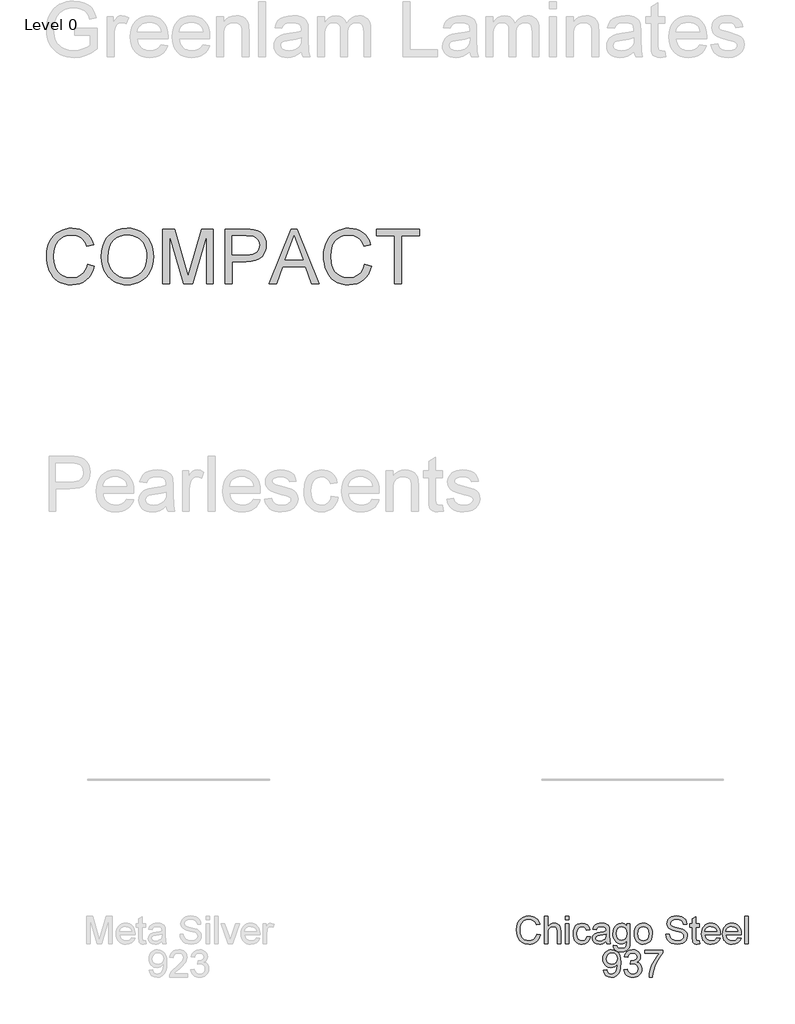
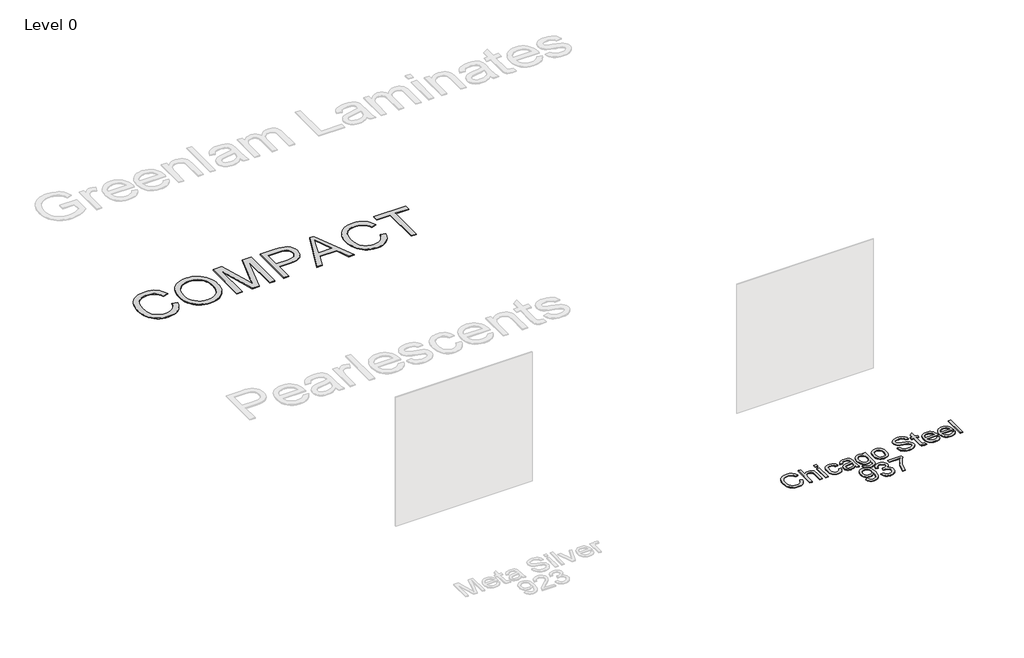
# One storey, part 2 of 3: 2 proxies.
"""IFC4 building model written with IfcOpenShell, lengths in millimetres."""

import ifcopenshell
import ifcopenshell.guid

model = None  # the IFC model being written
_history = None  # IfcOwnerHistory: only IFC2X3 demands one
_inside = {}  # id of a spatial element -> (the spatial element, [elements in it])
_under = {}  # id of a project, library or spatial element -> (it, [spatial elements below it])
_declared = {}  # id of a project -> (the project, [libraries it declares])
_typed = {}  # id of a type object -> (the type object, [elements of that type])
_made_of = {}  # id of a material, layer set ... -> (it, [elements and type objects made of it])


def new_model(schema):
    """Start an empty IFC model of exactly this schema.

    Asked for "IFC4X3", IfcOpenShell would pick the latest addendum, in which some entities
    have other attributes; the version numbers below select the first issue.
    IFC2X3 requires an IfcOwnerHistory on every rooted entity: one is made here for all.
    """
    global model, _history
    if schema == "IFC4X3":
        model = ifcopenshell.file(schema_version=(4, 3, 0, 0))
    else:
        model = ifcopenshell.file(schema=schema)
    _inside.clear()
    _under.clear()
    _declared.clear()
    _typed.clear()
    _made_of.clear()
    _history = None
    if model.schema == "IFC2X3":
        org = make("IfcOrganization", Name="unknown")
        user = make(
            "IfcPersonAndOrganization",
            ThePerson=make("IfcPerson", FamilyName="unknown"),
            TheOrganization=org,
        )
        app = make(
            "IfcApplication",
            ApplicationDeveloper=org,
            Version="unknown",
            ApplicationFullName="unknown",
            ApplicationIdentifier="unknown",
        )
        _history = make(
            "IfcOwnerHistory",
            OwningUser=user,
            OwningApplication=app,
            ChangeAction="ADDED",
            CreationDate=0,
        )
    return model


def make(cls, **values):
    """One entity of the class cls with the attributes given. An attribute that is None is left unset."""
    return model.create_entity(
        cls, **{name: value for name, value in values.items() if value is not None}
    )


def rooted(cls, **values):
    """An entity with a GlobalId (a new one), such as an element, a storey or a relation."""
    return make(cls, GlobalId=ifcopenshell.guid.new(), OwnerHistory=_history, **values)


def si_unit(unit_type, name, prefix=None):
    """IfcSIUnit, for example si_unit("LENGTHUNIT", "METRE", prefix="MILLI")."""
    return make("IfcSIUnit", UnitType=unit_type, Prefix=prefix, Name=name)


def assignment(units):
    """IfcUnitAssignment: the units of a project."""
    return None if units is None else make("IfcUnitAssignment", Units=units)


def point(xyz):
    """IfcCartesianPoint."""
    return None if xyz is None else make("IfcCartesianPoint", Coordinates=xyz)


def direction(xyz):
    """IfcDirection."""
    return None if xyz is None else make("IfcDirection", DirectionRatios=xyz)


def frame(location, z_axis=None, x_axis=None):
    """IfcAxis2Placement3D, a coordinate frame: its origin and axes. An axis left out is left unset."""
    return make(
        "IfcAxis2Placement3D",
        Location=point(location),
        Axis=direction(z_axis),
        RefDirection=direction(x_axis),
    )


def origin():
    """The frame at (0, 0, 0) with its axes left unset."""
    return frame((0.0, 0.0, 0.0))


def origin_with_axes():
    """The frame at (0, 0, 0) with the z axis (0, 0, 1) and the x axis (1, 0, 0) written out."""
    return frame((0.0, 0.0, 0.0), z_axis=(0.0, 0.0, 1.0), x_axis=(1.0, 0.0, 0.0))


def place(relative_to, where):
    """IfcLocalPlacement: puts the frame where relative to a parent placement (None: the world)."""
    return make(
        "IfcLocalPlacement", PlacementRelTo=relative_to, RelativePlacement=where
    )


def context(
    kind, dimensions, precision=None, world=None, true_north=None, identifier=None
):
    """IfcGeometricRepresentationContext, for example the 3D "Model" context."""
    return make(
        "IfcGeometricRepresentationContext",
        ContextIdentifier=identifier,
        ContextType=kind,
        CoordinateSpaceDimension=dimensions,
        Precision=precision,
        WorldCoordinateSystem=world,
        TrueNorth=true_north,
    )


def project(units=None, contexts=None):
    """IfcProject with its units and contexts."""
    return rooted(
        "IfcProject",
        Name="project",
        RepresentationContexts=contexts,
        UnitsInContext=assignment(units),
    )


def spatial(cls, under=None, at=None, **own):
    """A site, building, storey or space (cls), placed at a placement, below another one or the project."""
    s = rooted(cls, ObjectPlacement=at, **own)
    if under is not None:
        _under.setdefault(under.id(), (under, []))[1].append(s)
    return s


def polyline(points):
    """IfcPolyline through the points."""
    return make("IfcPolyline", Points=[point(p) for p in points])


def outline(outer, holes=None, kind="AREA"):
    """IfcArbitraryClosedProfileDef: a profile drawn as a closed curve; with holes, ...WithVoids."""
    if holes is None:
        return make("IfcArbitraryClosedProfileDef", ProfileType=kind, OuterCurve=outer)
    return make(
        "IfcArbitraryProfileDefWithVoids",
        ProfileType=kind,
        OuterCurve=outer,
        InnerCurves=holes,
    )


def extrude(swept, where, along, depth):
    """IfcExtrudedAreaSolid: the profile swept, set in the frame where, extruded along a direction by depth."""
    return make(
        "IfcExtrudedAreaSolid",
        SweptArea=swept,
        Position=where,
        ExtrudedDirection=direction(along),
        Depth=depth,
    )


def shape(context_of_items, identifier, shape_type, items):
    """IfcShapeRepresentation: the items that make up one representation, for example the "Body"."""
    return make(
        "IfcShapeRepresentation",
        ContextOfItems=context_of_items,
        RepresentationIdentifier=identifier,
        RepresentationType=shape_type,
        Items=items,
    )


def made_of(thing, what):
    """Note that an element or type object is made of a material, layer set ...; save() writes the relation."""
    if what is not None:
        _made_of.setdefault(what.id(), (what, []))[1].append(thing)
    return thing


def element(
    cls,
    number,
    at=None,
    inside=None,
    cuts=None,
    type_object=None,
    material=None,
    context=None,
    identifier="Body",
    shape_type=None,
    held_by="IfcProductDefinitionShape",
    body=None,
    shapes=None,
    **own,
):
    """One element of the class cls, such as IfcWall. Its Tag is "e" and its number.

    at: its placement. inside: the storey or other place that contains it. cuts: it is an
    opening in that element (IfcRelVoidsElement). A single representation is given by context,
    identifier, shape_type and body (its items); several are given by shapes. held_by: the class
    of the entity that holds the representations. save() writes the other relations.
    """
    e = rooted(cls, Tag="e%d" % number, ObjectPlacement=at, **own)
    if body is not None:
        shapes = [shape(context, identifier, shape_type, body)]
    if shapes is not None:
        e.Representation = make(held_by, Representations=shapes)
    if inside is not None:
        _inside.setdefault(inside.id(), (inside, []))[1].append(e)
    if cuts is not None:
        rooted(
            "IfcRelVoidsElement", RelatingBuildingElement=cuts, RelatedOpeningElement=e
        )
    if type_object is not None:
        _typed.setdefault(type_object.id(), (type_object, []))[1].append(e)
    return made_of(e, material)


def aggregate(whole, parts):
    """IfcRelAggregates: a whole, such as a stair, and the parts it consists of."""
    return rooted("IfcRelAggregates", RelatingObject=whole, RelatedObjects=parts)


def save(model, path):
    """Write the relations noted so far, then the file.

    IfcRelAggregates (storeys below a building ...), IfcRelContainedInSpatialStructure (elements
    in a storey), IfcRelDefinesByType, IfcRelAssociatesMaterial and IfcRelDeclares: one each for
    every whole, place, type object, material and project.
    """
    for whole, parts in _under.values():
        aggregate(whole, parts)
    for where, things in _inside.values():
        rooted(
            "IfcRelContainedInSpatialStructure",
            RelatedElements=things,
            RelatingStructure=where,
        )
    for kind, things in _typed.values():
        rooted("IfcRelDefinesByType", RelatedObjects=things, RelatingType=kind)
    for what, things in _made_of.values():
        rooted("IfcRelAssociatesMaterial", RelatedObjects=things, RelatingMaterial=what)
    for by, libraries in _declared.values():
        rooted("IfcRelDeclares", RelatingContext=by, RelatedDefinitions=libraries)
    model.write(path)


model = new_model("IFC4")

# Units and contexts
model_context = context("Model", 3, world=origin())
ifc_project = project(units=[si_unit("LENGTHUNIT", "METRE", prefix="MILLI")], contexts=[model_context])

# Site, building, storey
site = spatial("IfcSite", under=ifc_project)
building = spatial("IfcBuilding", under=site)
storey = spatial("IfcBuildingStorey", under=building, Name="Level 0", Elevation=0.0)

# Proxies
placement = place(None, origin())
element("IfcBuildingElementProxy", 1, Name="300mm Arial", ObjectType="300mm Arial", at=placement, inside=storey, context=model_context, shape_type="SweptSolid", body=[
    extrude(outline(polyline([(-5505.4493129, -6895.733257), (-5467.7781966, -6905.4453417), (-5475.2324055, -6928.872527), (-5485.1606208, -6949.3428607), (-5497.5628426, -6966.856343), (-5512.4390708, -6981.4129737), (-5529.4536131, -6992.856403), (-5548.2707771, -7001.0302811), (-5568.8905629, -7005.9346079), (-5591.3129706, -7007.5693835), (-5635.0081545, -7002.6213707), (-5669.7086237, -6987.7773322), (-5696.306492, -6963.5523028), (-5715.6938731, -6930.4613173), (-5727.5304763, -6891.5577963), (-5731.4760107, -6849.8951604), (-5727.0154415, -6805.9516561), (-5713.6337339, -6768.0046283), (-5692.0298638, -6737.2588905), (-5662.9028068, -6714.9192564), (-5628.3586875, -6701.3168196), (-5590.5036302, -6696.782674), (-5549.1996792, -6702.6503918), (-5531.230943, -6709.9850391), (-5515.051033, -6720.2535453), (-5500.9266636, -6733.1845974), (-5489.1245493, -6748.5068825), (-5472.4870861, -6786.3251516), (-5510.1582024, -6795.3014723), (-5523.2180132, -6767.8298843), (-5541.06029, -6748.9851291), (-5563.9057619, -6738.086625), (-5591.9751581, -6734.4537903), (-5624.3303796, -6738.4820981), (-5650.9098538, -6750.5670217), (-5671.0789842, -6769.439368), (-5684.2031743, -6793.8299443), (-5691.4044644, -6821.4026999), (-5693.8048944, -6849.821584), (-5690.963006, -6884.6232207), (-5682.4373408, -6914.7159679), (-5667.9060019, -6938.9501944), (-5647.0470928, -6956.1762688), (-5622.0403142, -6966.4677676), (-5595.0653669, -6969.8982672), (-5563.6206534, -6965.2261659), (-5537.4182583, -6951.2098619), (-5517.635404, -6927.996508), (-5505.4493129, -6895.733257)])), origin_with_axes(), (0.0, 0.0, 1.0), 10.0),
    extrude(outline(polyline([(-5420.6893012, -7002.860494), (-5420.6893012, -6701.4915635), (-5383.0181849, -6701.4915635), (-5383.0181849, -6812.2976205), (-5369.1812233, -6796.7821973), (-5353.6428076, -6785.6997522), (-5336.4029376, -6779.0502852), (-5317.4616133, -6776.8337961), (-5294.7081119, -6779.2526203), (-5275.1551839, -6786.5090926), (-5259.7593224, -6798.0329961), (-5249.4770206, -6813.2541137), (-5243.6828792, -6834.1682051), (-5241.7514987, -6862.7710302), (-5241.7514987, -7002.860494), (-5279.422615, -7002.860494), (-5279.422615, -6866.6705794), (-5282.4208533, -6843.0893435), (-5291.4155681, -6826.9393239), (-5305.9101187, -6817.6135153), (-5325.4078644, -6814.5049125), (-5341.3279578, -6816.6018398), (-5356.2731638, -6822.8926219), (-5368.652393, -6832.7702535), (-5376.8745556, -6845.6277292), (-5381.4822776, -6862.7158479), (-5383.0181849, -6885.2854083), (-5383.0181849, -7002.860494), (-5420.6893012, -7002.860494)])), origin_with_axes(), (0.0, 0.0, 1.0), 10.0),
    extrude(outline(polyline([(-5189.9537138, -7002.860494), (-5189.9537138, -6781.5426857), (-5152.2825975, -6781.5426857), (-5152.2825975, -7002.860494), (-5189.9537138, -7002.860494)])), origin_with_axes(), (0.0, 0.0, 1.0), 10.0),
    extrude(outline(polyline([(-5189.9537138, -6739.1626798), (-5189.9537138, -6701.4915635), (-5152.2825975, -6701.4915635), (-5152.2825975, -6739.1626798), (-5189.9537138, -6739.1626798)])), origin_with_axes(), (0.0, 0.0, 1.0), 10.0),
    extrude(outline(polyline([(-4954.5092369, -6922.8093718), (-4916.8381206, -6927.5182614), (-4927.3411516, -6961.0231141), (-4947.0780206, -6986.3425924), (-4974.1909236, -7002.2626857), (-5006.8220566, -7007.5693835), (-5027.9499795, -7005.7184772), (-5046.8936029, -7000.1657584), (-5063.6529271, -6990.9112269), (-5078.2279519, -6977.9548829), (-5090.0254676, -6961.5404481), (-5098.4522646, -6941.9116444), (-5103.5083427, -6919.0684718), (-5105.1937021, -6893.0109302), (-5102.3150255, -6859.4876834), (-5093.6789957, -6830.4342028), (-5079.1476569, -6806.9725286), (-5058.5830533, -6790.2247008), (-5033.9809449, -6780.1815223), (-5007.3370914, -6776.8337961), (-4975.5061018, -6781.4323211), (-4950.0578648, -6795.2278959), (-4931.8017207, -6817.4847566), (-4921.5470101, -6847.4671392), (-4959.2181264, -6852.1760288), (-4966.0515345, -6835.7409006), (-4976.6925212, -6823.9594797), (-4990.5524754, -6816.8685543), (-5007.0427858, -6814.5049125), (-5031.3873768, -6819.1586197), (-5050.7103786, -6833.1197414), (-5063.319534, -6857.1424357), (-5067.5225858, -6891.9808606), (-5063.4115045, -6927.2883351), (-5051.0782606, -6951.3938029), (-5032.1047467, -6965.2721511), (-5008.0728554, -6969.8982672), (-4988.5659126, -6967.0103936), (-4972.5722429, -6958.3467726), (-4960.9379748, -6943.6866751), (-4954.5092369, -6922.8093718)])), origin_with_axes(), (0.0, 0.0, 1.0), 10.0),
    extrude(outline(polyline([(-4742.6092077, -6974.6071568), (-4760.6078343, -6990.0398064), (-4779.1398898, -7000.1381672), (-4798.6284385, -7005.7115794), (-4819.4965447, -7007.5693835), (-4850.9780464, -7003.0996173), (-4874.2005974, -6989.6903186), (-4888.520404, -6969.3280501), (-4893.2936729, -6943.9993748), (-4891.4910511, -6928.3827841), (-4886.0831858, -6914.2009331), (-4877.7414616, -6902.0608273), (-4867.137263, -6892.5694718), (-4840.760124, -6880.2086368), (-4808.1657792, -6874.5432541), (-4769.6485343, -6868.5835657), (-4742.8299369, -6861.5938078), (-4742.6092077, -6853.2060983), (-4745.2027757, -6836.3938912), (-4752.9834799, -6825.3942195), (-4770.3842983, -6817.2272392), (-4794.6277218, -6814.5049125), (-4817.0685235, -6816.3167313), (-4832.7402965, -6821.7521878), (-4843.4272685, -6831.8045633), (-4850.9136671, -6847.4671392), (-4888.5847834, -6842.7582497), (-4882.0456809, -6822.156858), (-4872.287611, -6805.9700502), (-4858.4000657, -6793.590821), (-4839.472537, -6784.4121652), (-4816.3235625, -6778.7283884), (-4789.7716795, -6776.8337961), (-4764.3050483, -6778.5076592), (-4744.1175239, -6783.5292485), (-4728.8964063, -6791.0800264), (-4718.328996, -6800.3414556), (-4711.320844, -6811.7917827), (-4706.7775013, -6825.9092543), (-4704.9380914, -6858.8714811), (-4704.9380914, -6905.7396473), (-4703.025105, -6971.1858542), (-4695.5203123, -7002.860494), (-4733.1914286, -7002.860494), (-4742.6092077, -6974.6071568)]), holes=[polyline([(-4742.6092077, -6899.2649241), (-4803.3833133, -6910.8164188), (-4835.7937171, -6916.9232599), (-4850.4722087, -6926.8560738), (-4855.6225566, -6941.3506244), (-4852.8174564, -6952.5526311), (-4844.4021557, -6961.7312869), (-4830.5605957, -6967.8565221), (-4811.4767172, -6969.8982672), (-4791.2432074, -6967.64499), (-4773.3641425, -6960.8851583), (-4758.8695919, -6950.9247533), (-4748.7896252, -6939.069756), (-4744.319859, -6926.8560738), (-4742.8299369, -6909.933502), (-4742.6092077, -6899.2649241)])]), origin_with_axes(), (0.0, 0.0, 1.0), 10.0),
    extrude(outline(polyline([(-4662.5580855, -7021.6960521), (-4624.8869692, -7026.4049417), (-4620.7299027, -7038.1771655), (-4612.673287, -7046.2705694), (-4596.8359671, -7052.5613515), (-4576.1058167, -7054.6582789), (-4553.9961088, -7052.28544), (-4537.5517836, -7045.1669234), (-4526.1474417, -7033.7625816), (-4519.1576838, -7018.532267), (-4516.5825098, -6974.6071568), (-4529.1180888, -6986.9679918), (-4543.1068017, -6995.7971597), (-4558.5486484, -7001.0946604), (-4575.4436291, -7002.860494), (-4596.0979038, -7000.8049533), (-4614.2827707, -6994.6383314), (-4629.9982297, -6984.3606281), (-4643.2442808, -6969.9718436), (-4653.7542095, -6952.708981), (-4661.2613015, -6933.8090435), (-4665.7655567, -6913.2720311), (-4667.2669751, -6891.0979438), (-4664.5722395, -6860.6832999), (-4656.4880326, -6832.7150712), (-4643.2994631, -6809.0142737), (-4625.2916394, -6791.4019232), (-4603.080764, -6780.4758279), (-4577.283039, -6776.8337961), (-4559.66609, -6778.8939353), (-4543.6770188, -6785.0743528), (-4529.3158254, -6795.3750487), (-4516.5825098, -6809.7960229), (-4516.5825098, -6781.5426857), (-4478.9113935, -6781.5426857), (-4478.9113935, -6972.620594), (-4481.4865675, -7016.7388422), (-4489.2120894, -7045.7923228), (-4502.5202206, -7065.0601423), (-4521.8432224, -7079.8214074), (-4546.7580305, -7089.2023982), (-4576.8415807, -7092.3293952), (-4611.8915377, -7087.9240083), (-4639.4918844, -7074.7078476), (-4649.8868501, -7064.7865301), (-4657.1962054, -7052.644125), (-4661.4199506, -7038.2806323), (-4662.5580855, -7021.6960521)]), holes=[polyline([(-4629.5958588, -6888.5227699), (-4625.576748, -6923.0760863), (-4613.5194156, -6946.8320661), (-4595.3920303, -6960.6000498), (-4573.1627607, -6965.1893777), (-4551.099038, -6960.6276409), (-4532.8796822, -6946.9424307), (-4520.6568029, -6923.4899535), (-4516.5825098, -6889.6264159), (-4520.7763646, -6856.9676917), (-4533.3579288, -6833.4508352), (-4551.8439991, -6819.2413931), (-4573.7513719, -6814.5049125), (-4595.2632716, -6819.1678167), (-4613.2986864, -6833.1565296), (-4625.5215657, -6856.3238983), (-4629.5958588, -6888.5227699)])]), origin_with_axes(), (0.0, 0.0, 1.0), 10.0),
    extrude(outline(polyline([(-4431.8224982, -6892.2015898), (-4429.7853516, -6863.5389839), (-4423.673912, -6838.8403064), (-4413.4881792, -6818.1055575), (-4399.2281534, -6801.334737), (-4384.8715585, -6790.6155754), (-4369.0250416, -6782.9590314), (-4351.6886026, -6778.3651049), (-4332.8622415, -6776.8337961), (-4312.079208, -6778.698498), (-4293.2873358, -6784.2926036), (-4276.486625, -6793.6161129), (-4261.6770754, -6806.669026), (-4249.5898526, -6823.0098843), (-4240.956122, -6842.1972296), (-4235.7758837, -6864.2310619), (-4234.0491375, -6889.1113811), (-4237.1025581, -6927.1687735), (-4246.2628198, -6956.1394806), (-4261.2632081, -6977.8353213), (-4281.8370087, -6994.0681143), (-4306.2735703, -7004.1940662), (-4332.8622415, -7007.5693835), (-4353.9487776, -7005.7115794), (-4372.9153937, -7000.1381672), (-4389.7620898, -6990.8491468), (-4404.4888659, -6977.8445183), (-4416.44733, -6961.3450108), (-4424.9890901, -6941.5713536), (-4430.1141461, -6918.5235466), (-4431.8224982, -6892.2015898)]), holes=[polyline([(-4394.1513818, -6892.1280134), (-4389.7919802, -6926.2214773), (-4376.7137753, -6950.5108861), (-4357.0320885, -6965.0514219), (-4332.8622415, -6969.8982672), (-4308.802759, -6965.0238308), (-4289.1578604, -6950.4005215), (-4276.0796555, -6925.789216), (-4271.7202539, -6890.950791), (-4276.1072466, -6857.8506085), (-4289.268225, -6833.8922936), (-4308.9407147, -6819.3517577), (-4332.8622415, -6814.5049125), (-4357.0320885, -6819.3333636), (-4376.7137753, -6833.8187172), (-4389.7919802, -6858.0529436), (-4394.1513818, -6892.1280134)])]), origin_with_axes(), (0.0, 0.0, 1.0), 10.0),
    extrude(outline(polyline([(-4083.3646723, -6899.2649241), (-4045.693556, -6899.2649241), (-4041.3709426, -6920.1698185), (-4033.5534502, -6936.9728286), (-4021.358162, -6950.308551), (-4003.9021614, -6960.8115819), (-3982.5650056, -6967.6265959), (-3958.7262524, -6969.8982672), (-3937.7385845, -6968.1784189), (-3919.3628789, -6963.0188739), (-3904.4728551, -6954.8518936), (-3893.942233, -6944.1097394), (-3887.679042, -6931.7764955), (-3885.5913117, -6918.8362463), (-3887.1548102, -6906.2270909), (-3891.8453056, -6895.3285868), (-3901.3734493, -6886.0303694), (-3917.4498925, -6878.222074), (-3972.301098, -6863.837888), (-4008.3075483, -6854.3189414), (-4031.3461582, -6845.2598472), (-4050.0989429, -6832.5863125), (-4063.38868, -6817.2272392), (-4071.3073399, -6799.5137211), (-4073.9468932, -6779.7768521), (-4070.6819405, -6757.7131294), (-4060.8870824, -6737.1393289), (-4044.8198363, -6719.7017223), (-4022.7377195, -6707.0465817), (-3996.2318218, -6699.3486509), (-3966.8932326, -6696.782674), (-3935.1082283, -6699.4682126), (-3907.2963494, -6707.5248283), (-3884.4508775, -6720.7869742), (-3867.565094, -6739.0891034), (-3856.878122, -6761.2907818), (-3852.6290849, -6786.2515752), (-3890.3002013, -6786.2515752), (-3897.2163828, -6763.7739853), (-3911.637357, -6747.5503893), (-3934.1701292, -6737.7279401), (-3965.4217047, -6734.4537903), (-3997.4090441, -6737.6911519), (-4019.3532052, -6747.4032365), (-4032.045134, -6761.695452), (-4036.2757769, -6778.6732061), (-4033.2775387, -6793.1493626), (-4024.2828239, -6804.7928278), (-4003.0192446, -6815.2038882), (-3962.7729543, -6825.8356779), (-3921.239077, -6835.9340387), (-3896.1127368, -6844.7448125), (-3874.6376253, -6858.4116286), (-3859.6556311, -6875.2790181), (-3850.8540543, -6895.1630399), (-3847.9201954, -6917.8797531), (-3851.2955127, -6941.102304), (-3861.4214646, -6962.9452975), (-3877.8841839, -6981.7440675), (-3900.2698033, -6995.8339479), (-3927.1895683, -7004.6355246), (-3957.2547244, -7007.5693835), (-3994.1624855, -7004.4055984), (-4024.5403413, -6994.9142429), (-4048.7377795, -6979.0585289), (-4067.1042881, -6956.8016682), (-4078.8949061, -6929.6887651), (-4083.3646723, -6899.2649241)])), origin_with_axes(), (0.0, 0.0, 1.0), 10.0),
    extrude(outline(polyline([(-3716.0712883, -6971.4433716), (-3711.3623988, -7003.96414), (-3739.5421596, -7007.5693835), (-3757.6235597, -7006.005885), (-3771.1064348, -7001.3153896), (-3780.6345785, -6994.0865084), (-3786.8517842, -6984.9078526), (-3790.2730868, -6969.1441091), (-3791.413521, -6942.1599648), (-3791.413521, -6819.213802), (-3819.6668582, -6819.213802), (-3819.6668582, -6781.5426857), (-3791.413521, -6781.5426857), (-3791.413521, -6727.758338), (-3753.7424046, -6705.6118419), (-3753.7424046, -6781.5426857), (-3716.0712883, -6781.5426857), (-3716.0712883, -6819.213802), (-3753.7424046, -6819.213802), (-3753.7424046, -6941.0563188), (-3751.7558419, -6960.4804881), (-3745.317907, -6967.3598814), (-3732.4788253, -6969.8982672), (-3716.0712883, -6971.4433716)])), origin_with_axes(), (0.0, 0.0, 1.0), 10.0),
    extrude(outline(polyline([(-3523.4482757, -6936.9360404), (-3486.5129233, -6941.64493), (-3499.8210545, -6969.4752029), (-3521.0570427, -6990.2789297), (-3549.7426413, -7003.2467701), (-3585.3996037, -7007.5693835), (-3608.7739059, -7005.7046817), (-3629.6006254, -7000.1105761), (-3647.879762, -6990.7870668), (-3663.6113158, -6977.7341537), (-3676.2618579, -6961.3151204), (-3685.2979594, -6941.8932503), (-3690.7196203, -6919.4685435), (-3692.5268406, -6894.0409998), (-3690.7012262, -6867.7512327), (-3685.224383, -6844.5792656), (-3676.096311, -6824.5250983), (-3663.3170102, -6807.5887309), (-3647.6268431, -6794.133447), (-3629.7661723, -6784.5225298), (-3609.7349976, -6778.7559796), (-3587.5333192, -6776.8337961), (-3566.0467114, -6778.751381), (-3546.6156443, -6784.5041357), (-3529.2401178, -6794.0920602), (-3513.920132, -6807.5151545), (-3501.4144434, -6824.4147337), (-3492.4818087, -6844.4321128), (-3487.1222279, -6867.5672917), (-3485.335701, -6893.8202706), (-3485.5564302, -6903.9738137), (-3654.8557243, -6903.9738137), (-3648.335016, -6932.1719686), (-3633.1874748, -6952.902119), (-3611.3260873, -6965.6492302), (-3584.6638397, -6969.8982672), (-3564.6142709, -6967.9300985), (-3547.7284873, -6962.0255925), (-3534.0064889, -6951.8168672), (-3523.4482757, -6936.9360404)]), holes=[polyline([(-3654.8557243, -6866.3026974), (-3523.0068173, -6866.3026974), (-3528.1019829, -6846.4002814), (-3538.0899791, -6832.1632482), (-3560.0525342, -6818.9194964), (-3587.680472, -6814.5049125), (-3613.0735267, -6818.0273826), (-3634.0703916, -6828.5947929), (-3648.6661098, -6845.0667092), (-3654.8557243, -6866.3026974)])]), origin_with_axes(), (0.0, 0.0, 1.0), 10.0),
    extrude(outline(polyline([(-3292.7126883, -6936.9360404), (-3255.777336, -6941.64493), (-3269.0854671, -6969.4752029), (-3290.3214553, -6990.2789297), (-3319.0070539, -7003.2467701), (-3354.6640163, -7007.5693835), (-3378.0383185, -7005.7046817), (-3398.865038, -7000.1105761), (-3417.1441746, -6990.7870668), (-3432.8757285, -6977.7341537), (-3445.5262706, -6961.3151204), (-3454.5623721, -6941.8932503), (-3459.984033, -6919.4685435), (-3461.7912533, -6894.0409998), (-3459.9656389, -6867.7512327), (-3454.4887957, -6844.5792656), (-3445.3607237, -6824.5250983), (-3432.5814229, -6807.5887309), (-3416.8912558, -6794.133447), (-3399.0305849, -6784.5225298), (-3378.9994103, -6778.7559796), (-3356.7977318, -6776.8337961), (-3335.3111241, -6778.751381), (-3315.8800569, -6784.5041357), (-3298.5045305, -6794.0920602), (-3283.1845446, -6807.5151545), (-3270.678856, -6824.4147337), (-3261.7462213, -6844.4321128), (-3256.3866405, -6867.5672917), (-3254.6001136, -6893.8202706), (-3254.8208428, -6903.9738137), (-3424.120137, -6903.9738137), (-3417.5994286, -6932.1719686), (-3402.4518875, -6952.902119), (-3380.5904999, -6965.6492302), (-3353.9282523, -6969.8982672), (-3333.8786835, -6967.9300985), (-3316.9929, -6962.0255925), (-3303.2709016, -6951.8168672), (-3292.7126883, -6936.9360404)]), holes=[polyline([(-3424.120137, -6866.3026974), (-3292.2712299, -6866.3026974), (-3297.3663955, -6846.4002814), (-3307.3543917, -6832.1632482), (-3329.3169468, -6818.9194964), (-3356.9448846, -6814.5049125), (-3382.3379394, -6818.0273826), (-3403.3348042, -6828.5947929), (-3417.9305224, -6845.0667092), (-3424.120137, -6866.3026974)])]), origin_with_axes(), (0.0, 0.0, 1.0), 10.0),
    extrude(outline(polyline([(-3216.9289973, -7002.860494), (-3216.9289973, -6701.4915635), (-3179.257881, -6701.4915635), (-3179.257881, -7002.860494), (-3216.9289973, -7002.860494)])), origin_with_axes(), (0.0, 0.0, 1.0), 10.0),
    extrude(outline(polyline([(-4773.2169897, -7293.4427149), (-4735.5458734, -7288.7338254), (-4729.1079385, -7310.1169663), (-4718.6233016, -7324.6758963), (-4704.3494802, -7333.0360146), (-4686.5439916, -7335.8227207), (-4670.568716, -7334.029296), (-4656.0465742, -7328.6490218), (-4643.9800448, -7320.2705094), (-4635.3716061, -7309.4823699), (-4623.0475592, -7276.7408723), (-4617.6029057, -7233.0364913), (-4617.8236349, -7225.6788514), (-4630.8742487, -7241.6081418), (-4647.9531703, -7254.2264942), (-4667.8279951, -7262.4486568), (-4689.2663184, -7265.1893777), (-4707.1614782, -7263.5155146), (-4723.6172997, -7258.4939254), (-4738.6337829, -7250.12461), (-4752.2109278, -7238.4075684), (-4763.461219, -7223.9544045), (-4771.4971414, -7207.3767221), (-4776.3186948, -7188.6745212), (-4777.9258792, -7167.8478018), (-4776.2405198, -7146.326705), (-4771.1844417, -7127.0129003), (-4762.7576447, -7109.9063875), (-4750.960129, -7095.0071667), (-4736.6242275, -7082.9360387), (-4720.5822732, -7074.3138045), (-4702.8342662, -7069.1404639), (-4683.3802065, -7067.4160171), (-4655.2832191, -7071.3523544), (-4629.7062234, -7083.1613665), (-4608.3138853, -7102.254442), (-4592.770871, -7128.0429699), (-4583.3071067, -7163.6907352), (-4580.1525186, -7212.3615232), (-4583.2979097, -7263.96617), (-4592.7340828, -7303.8537754), (-4608.3782647, -7333.8269609), (-4630.1476818, -7355.6883485), (-4657.104235, -7369.0424649), (-4688.3098252, -7373.4938371), (-4720.5178939, -7368.2423216), (-4746.2144512, -7352.4877751), (-4764.1854867, -7327.2234791), (-4773.2169897, -7293.4427149)]), holes=[polyline([(-4617.8236349, -7166.964885), (-4621.888731, -7141.4338745), (-4634.0840191, -7121.788976), (-4653.0115478, -7109.262594), (-4677.2733653, -7105.0871334), (-4702.4364938, -7109.5844908), (-4722.5964271, -7123.0765629), (-4735.840179, -7143.7239399), (-4740.2547629, -7169.6872117), (-4736.0793023, -7192.964945), (-4723.5529203, -7211.4418182), (-4703.8896277, -7223.4991506), (-4678.3034349, -7227.5182614), (-4654.2347554, -7223.4991506), (-4634.8565713, -7211.4418182), (-4622.081869, -7192.2843633), (-4617.8236349, -7166.964885)])]), origin_with_axes(), (0.0, 0.0, 1.0), 10.0),
    extrude(outline(polyline([(-4547.1902918, -7288.7338254), (-4509.5191755, -7284.0249358), (-4501.0854808, -7307.6981422), (-4488.7338428, -7323.6826149), (-4471.8572563, -7332.7876943), (-4449.8487159, -7335.8227207), (-4424.0233999, -7331.6472601), (-4404.0841957, -7319.1208782), (-4391.3370846, -7300.4324728), (-4387.0880475, -7277.7709419), (-4391.3002964, -7256.2590422), (-4403.9370429, -7238.8122386), (-4423.0669067, -7227.2515469), (-4446.7585072, -7223.397983), (-4473.1724344, -7227.5182614), (-4468.9785797, -7189.8471451), (-4462.9453149, -7190.2886035), (-4440.3757545, -7187.5846708), (-4420.1974271, -7179.4728728), (-4405.9603939, -7165.7508744), (-4401.2147162, -7146.2163404), (-4404.6544128, -7129.9467592), (-4414.9735028, -7116.7489926), (-4430.7188522, -7108.0025982), (-4450.4373271, -7105.0871334), (-4470.1925903, -7108.0301893), (-4486.3426098, -7116.8593572), (-4498.1332278, -7131.574637), (-4504.810286, -7152.1760288), (-4542.4814023, -7147.4671392), (-4531.3897601, -7113.6403898), (-4511.6528911, -7088.3852908), (-4484.6503527, -7072.6583355), (-4451.7617023, -7067.4160171), (-4428.0792989, -7070.0003881), (-4406.3282759, -7077.7535011), (-4387.9893584, -7089.9855775), (-4374.5432715, -7106.0068384), (-4366.2935178, -7124.4653175), (-4363.5435998, -7144.0090485), (-4366.155562, -7162.2192072), (-4373.9914485, -7178.7371088), (-4386.9408947, -7192.8085951), (-4404.8935361, -7203.6795081), (-4381.3123002, -7213.2076518), (-4363.8379054, -7229.4312477), (-4353.0221748, -7251.4673793), (-4349.4169312, -7278.4331295), (-4351.219553, -7297.5445992), (-4356.6274183, -7315.1477526), (-4365.6405272, -7331.2425899), (-4378.2588797, -7345.829111), (-4393.6317485, -7357.9324287), (-4410.9084067, -7366.5776555), (-4430.0888543, -7371.7647917), (-4451.1730911, -7373.4938371), (-4470.2293785, -7372.0177105), (-4487.5934086, -7367.589331), (-4503.2651816, -7360.2086985), (-4517.2446974, -7349.875813), (-4528.9663375, -7337.1976797), (-4537.8644833, -7322.781304), (-4543.9391347, -7306.6266859), (-4547.1902918, -7288.7338254)])), origin_with_axes(), (0.0, 0.0, 1.0), 10.0),
    extrude(outline(polyline([(-4316.4547045, -7109.7960229), (-4316.4547045, -7072.1249066), (-4118.6813439, -7072.1249066), (-4118.6813439, -7102.5855358), (-4146.8703017, -7138.2608923), (-4174.7833481, -7183.6299393), (-4199.4038507, -7234.5540045), (-4217.715177, -7286.8944154), (-4226.6914976, -7326.0554538), (-4231.6946928, -7368.7849475), (-4269.3658091, -7368.7849475), (-4265.291516, -7329.9550029), (-4254.3930119, -7283.8042066), (-4236.9646024, -7234.8850983), (-4213.300593, -7187.7502177), (-4185.6726552, -7145.1402856), (-4156.3524602, -7109.7960229), (-4316.4547045, -7109.7960229)])), origin_with_axes(), (0.0, 0.0, 1.0), 10.0),
])
element("IfcBuildingElementProxy", 2, Name="600mm Arial", ObjectType="600mm Arial", at=placement, inside=storey, context=model_context, shape_type="SweptSolid", body=[
    extrude(outline(polyline([(-10453.6631268, 474.3824267), (-10378.3208942, 454.9582573), (-10393.229312, 408.1038867), (-10413.0857427, 367.1632192), (-10437.8901863, 332.1362547), (-10467.6426426, 303.0229933), (-10501.6717272, 280.1361347), (-10539.3060553, 263.7883785), (-10580.5456269, 253.9797248), (-10625.3904421, 250.7101736), (-10671.3343048, 253.18418), (-10712.7808101, 260.6061993), (-10749.729958, 272.9762314), (-10782.1817485, 290.2942763), (-10810.5822385, 312.3028166), (-10835.377485, 338.744335), (-10856.5674879, 369.6188315), (-10874.1522473, 404.926306), (-10887.9616177, 443.1400482), (-10897.8254537, 482.733348), (-10903.7437553, 523.7062052), (-10905.7165225, 566.0586199), (-10903.4862379, 611.5012433), (-10896.7953841, 653.9456285), (-10885.6439611, 693.3917754), (-10870.0319689, 729.8396841), (-10850.3088955, 762.6869478), (-10826.8242286, 791.3311596), (-10799.5779683, 815.7723197), (-10768.5701147, 836.0104279), (-10734.8537298, 851.8799375), (-10699.481876, 863.2153015), (-10662.4545532, 870.0165199), (-10623.7717614, 872.2835926), (-10580.6789842, 869.3497337), (-10541.1638594, 860.548157), (-10505.2263869, 845.8788624), (-10472.8665669, 825.3418501), (-10444.6178282, 799.4797458), (-10421.0135997, 768.8351756), (-10402.0538814, 733.4081395), (-10387.7386733, 693.1986374), (-10463.0809059, 675.245996), (-10474.9451002, 704.8742922), (-10489.2005275, 730.189172), (-10505.8471878, 751.1906354), (-10524.8850811, 767.8786824), (-10546.4245719, 780.5936039), (-10570.5760249, 789.6756906), (-10597.33944, 795.1249427), (-10626.7148173, 796.94136), (-10660.5139756, 794.9272061), (-10691.4252603, 788.8847443), (-10719.4486713, 778.8139747), (-10744.5842086, 764.7148973), (-10766.514574, 747.2221084), (-10784.9224694, 726.9702046), (-10799.8078946, 703.9591858), (-10811.1708497, 678.189052), (-10825.5734298, 623.0435409), (-10830.3742899, 566.2057727), (-10824.690513, 496.6024992), (-10817.585792, 465.3325296), (-10807.6391826, 436.4170048), (-10794.6897363, 410.4307403), (-10778.5765049, 387.9485519), (-10759.2994884, 368.9704395), (-10736.8586867, 353.496403), (-10712.3439502, 341.4896544), (-10686.8451294, 332.9134054), (-10660.3622243, 327.767656), (-10632.8952348, 326.0524062), (-10600.1399417, 328.3884569), (-10570.0058078, 335.3966089), (-10542.4928331, 347.0768622), (-10517.6010176, 363.4292169), (-10495.9189725, 384.3800965), (-10478.035309, 409.8559247), (-10463.9500271, 439.8567014), (-10453.6631268, 474.3824267)])), origin_with_axes(), (0.0, 0.0, 1.0), 10.0),
    extrude(outline(polyline([(-10302.9786616, 553.550632), (-10297.9570723, 624.2483544), (-10282.8923046, 686.8342789), (-10257.7843585, 741.3084053), (-10241.4641935, 765.5035443), (-10222.6332338, 787.6707338), (-10179.5450551, 824.6888595), (-10130.6259468, 851.1303779), (-10075.8759089, 866.995289), (-10015.2949413, 872.2835926), (-9974.7451484, 869.8003892), (-9936.2371006, 862.3507788), (-9899.7707978, 849.9347614), (-9865.3462401, 832.5523372), (-9833.9291177, 810.7277378), (-9806.4851209, 784.9851952), (-9783.0142496, 755.3247093), (-9763.5165038, 721.7462802), (-9748.1942187, 685.013263), (-9737.2497294, 645.8890128), (-9730.6830358, 604.3735297), (-9728.4941379, 560.4668135), (-9730.7979989, 515.9806833), (-9737.7095819, 473.9041801), (-9749.2288869, 434.2373039), (-9765.3559138, 396.9800549), (-9785.7089852, 363.1165172), (-9809.9064234, 333.6307753), (-9837.9482285, 308.5228291), (-9869.8344005, 287.7926787), (-9904.3095419, 271.5690827), (-9940.1182556, 259.9807999), (-9977.2605416, 253.0278302), (-10015.7363997, 250.7101736), (-10056.9943655, 253.271552), (-10096.0082511, 260.9556872), (-10132.7780565, 273.7625791), (-10167.3037818, 291.6922279), (-10198.6841159, 314.0502561), (-10226.0177482, 340.1422866), (-10249.3046785, 369.9683194), (-10268.5449068, 403.5283544), (-10283.6096745, 439.4750238), (-10294.3702229, 476.4609599), (-10300.8265519, 514.4861627), (-10302.9786616, 553.550632)]), holes=[polyline([(-10227.636429, 552.814868), (-10223.870237, 502.8656901), (-10212.5716613, 458.5267127), (-10193.7407016, 419.7979356), (-10167.3773582, 386.679359), (-10135.3302378, 360.1550672), (-10099.4479477, 341.2091444), (-10059.7304878, 329.8415908), (-10016.1778581, 326.0524062), (-9971.8802674, 329.878379), (-9931.6937579, 341.3562972), (-9895.6183298, 360.486161), (-9863.6539829, 387.2679702), (-9837.4837775, 421.0855226), (-9818.7907736, 461.3226158), (-9807.5749713, 507.9792499), (-9803.8363705, 561.0554247), (-9805.4366572, 595.5351647), (-9810.2375172, 627.7524305), (-9818.2389506, 657.7072219), (-9829.4409574, 685.3995391), (-9843.7193773, 710.4660985), (-9860.9500503, 732.5436168), (-9881.1329762, 751.6320938), (-9904.2681552, 767.7315296), (-9929.6382173, 780.5108304), (-9956.5257926, 789.6389024), (-9984.9308812, 795.1157456), (-10014.853483, 796.94136), (-10056.8931979, 793.4234885), (-10095.8978865, 782.8698737), (-10131.8675486, 765.2805158), (-10164.8021842, 740.6554148), (-10192.2921663, 707.8081511), (-10211.9278678, 665.5523055), (-10223.7092887, 613.8878778), (-10227.636429, 552.814868)])]), origin_with_axes(), (0.0, 0.0, 1.0), 10.0),
    extrude(outline(polyline([(-9624.8985681, 260.1279527), (-9624.8985681, 862.8658136), (-9495.256953, 862.8658136), (-9371.9429082, 438.0356855), (-9347.0740853, 349.3025483), (-9320.1451233, 445.3933254), (-9198.8912176, 862.8658136), (-9069.2496025, 862.8658136), (-9069.2496025, 260.1279527), (-9144.5918352, 260.1279527), (-9144.5918352, 787.523581), (-9296.0120644, 260.1279527), (-9398.1361062, 260.1279527), (-9549.5563355, 787.523581), (-9549.5563355, 260.1279527), (-9624.8985681, 260.1279527)])), origin_with_axes(), (0.0, 0.0, 1.0), 10.0),
    extrude(outline(polyline([(-8937.4006955, 260.1279527), (-8937.4006955, 862.8658136), (-8714.022748, 862.8658136), (-8662.0042339, 861.4310738), (-8623.9652356, 857.1268544), (-8583.8109158, 846.4030943), (-8550.7567185, 828.9470936), (-8524.1404562, 803.9679061), (-8503.2999412, 770.6745856), (-8489.8354601, 731.4031826), (-8485.3472998, 688.4897479), (-8488.3777277, 651.4900162), (-8497.4690115, 617.4517346), (-8512.6211512, 586.374903), (-8533.8341468, 558.2595216), (-8562.9566052, 534.9541972), (-8601.8371336, 518.3075369), (-8650.4757319, 508.3195407), (-8708.8724001, 504.9902087), (-8862.0584629, 504.9902087), (-8862.0584629, 260.1279527), (-8937.4006955, 260.1279527)]), holes=[polyline([(-8862.0584629, 580.3324413), (-8704.4578161, 580.3324413), (-8668.2214396, 582.0614867), (-8637.6504458, 587.2486228), (-8612.7448347, 595.8938497), (-8593.5046064, 607.9971673), (-8579.1480115, 623.236679), (-8568.8933009, 641.2904879), (-8562.7404745, 662.1585941), (-8560.6895324, 685.8409975), (-8565.5271807, 719.686141), (-8580.0401254, 748.2337839), (-8602.4257448, 769.7180924), (-8630.8814171, 782.373233), (-8659.9440947, 786.235994), (-8706.2236497, 787.523581), (-8862.0584629, 787.523581), (-8862.0584629, 580.3324413)])]), origin_with_axes(), (0.0, 0.0, 1.0), 10.0),
    extrude(outline(polyline([(-8451.9436146, 260.1279527), (-8211.3487898, 862.8658136), (-8147.1901698, 862.8658136), (-7906.595345, 260.1279527), (-7986.2050087, 260.1279527), (-8055.219671, 448.4835342), (-8303.4664414, 448.4835342), (-8372.3339509, 260.1279527), (-8451.9436146, 260.1279527)]), holes=[polyline([(-8275.8017154, 523.8257668), (-8082.7372443, 523.8257668), (-8137.0366268, 672.0086345), (-8179.2694798, 787.523581), (-8216.7934433, 684.9580807), (-8275.8017154, 523.8257668)])]), origin_with_axes(), (0.0, 0.0, 1.0), 10.0),
    extrude(outline(polyline([(-7402.302706, 474.3824267), (-7326.9604734, 454.9582573), (-7341.8688912, 408.1038867), (-7361.7253219, 367.1632192), (-7386.5297655, 332.1362547), (-7416.2822218, 303.0229933), (-7450.3113064, 280.1361347), (-7487.9456345, 263.7883785), (-7529.1852061, 253.9797248), (-7574.0300214, 250.7101736), (-7619.973884, 253.18418), (-7661.4203893, 260.6061993), (-7698.3695372, 272.9762314), (-7730.8213277, 290.2942763), (-7759.2218177, 312.3028166), (-7784.0170642, 338.744335), (-7805.2070671, 369.6188315), (-7822.7918265, 404.926306), (-7836.6011969, 443.1400482), (-7846.4650329, 482.733348), (-7852.3833345, 523.7062052), (-7854.3561017, 566.0586199), (-7852.1258171, 611.5012433), (-7845.4349633, 653.9456285), (-7834.2835403, 693.3917754), (-7818.6715481, 729.8396841), (-7798.9484747, 762.6869478), (-7775.4638078, 791.3311596), (-7748.2175475, 815.7723197), (-7717.2096939, 836.0104279), (-7683.493309, 851.8799375), (-7648.1214552, 863.2153015), (-7611.0941324, 870.0165199), (-7572.4113406, 872.2835926), (-7529.3185634, 869.3497337), (-7489.8034386, 860.548157), (-7453.8659662, 845.8788624), (-7421.5061462, 825.3418501), (-7393.2574074, 799.4797458), (-7369.6531789, 768.8351756), (-7350.6934606, 733.4081395), (-7336.3782525, 693.1986374), (-7411.7204851, 675.245996), (-7423.5846794, 704.8742922), (-7437.8401067, 730.189172), (-7454.486767, 751.1906354), (-7473.5246603, 767.8786824), (-7495.0641511, 780.5936039), (-7519.2156041, 789.6756906), (-7545.9790192, 795.1249427), (-7575.3543965, 796.94136), (-7609.1535548, 794.9272061), (-7640.0648395, 788.8847443), (-7668.0882505, 778.8139747), (-7693.2237878, 764.7148973), (-7715.1541532, 747.2221084), (-7733.5620486, 726.9702046), (-7748.4474738, 703.9591858), (-7759.8104289, 678.189052), (-7774.213009, 623.0435409), (-7779.0138691, 566.2057727), (-7773.3300922, 496.6024992), (-7766.2253712, 465.3325296), (-7756.2787618, 436.4170048), (-7743.3293155, 410.4307403), (-7727.2160841, 387.9485519), (-7707.9390676, 368.9704395), (-7685.4982659, 353.496403), (-7660.9835294, 341.4896544), (-7635.4847086, 332.9134054), (-7609.0018035, 327.767656), (-7581.5348141, 326.0524062), (-7548.7795209, 328.3884569), (-7518.645387, 335.3966089), (-7491.1324123, 347.0768622), (-7466.2405968, 363.4292169), (-7444.5585517, 384.3800965), (-7426.6748882, 409.8559247), (-7412.5896063, 439.8567014), (-7402.302706, 474.3824267)])), origin_with_axes(), (0.0, 0.0, 1.0), 10.0),
    extrude(outline(polyline([(-7072.6804383, 260.1279527), (-7072.6804383, 787.523581), (-7270.4537989, 787.523581), (-7270.4537989, 862.8658136), (-6799.5648451, 862.8658136), (-6799.5648451, 787.523581), (-6997.3382057, 787.523581), (-6997.3382057, 260.1279527), (-7072.6804383, 260.1279527)])), origin_with_axes(), (0.0, 0.0, 1.0), 10.0),
])

save(model, "model.ifc")
